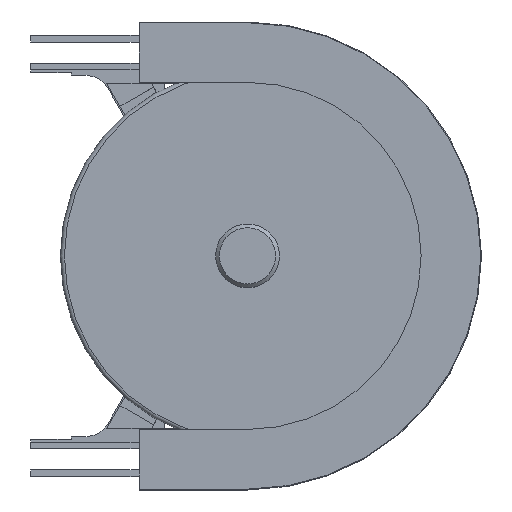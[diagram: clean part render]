
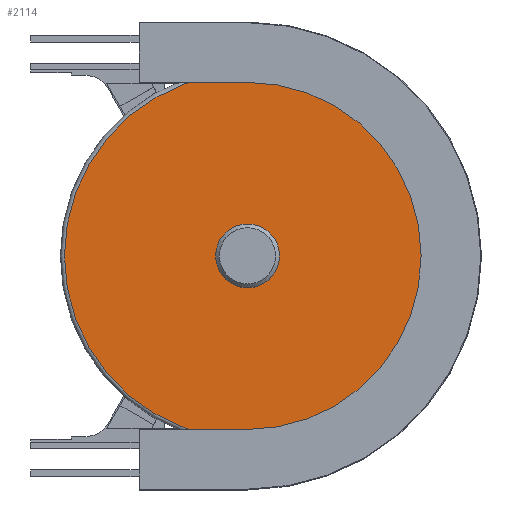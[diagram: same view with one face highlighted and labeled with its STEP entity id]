
A CAD part, top view. The second image highlights one B-rep face of the part: STEP entity #2114.
In plain terms, the highlighted planar face has unit normal (0, 0, 1).
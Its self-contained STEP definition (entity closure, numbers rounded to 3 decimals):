
#41=FACE_BOUND('',#345,.T.);
#81=CIRCLE('',#2283,135.);
#83=CIRCLE('',#2286,21.);
#213=FACE_OUTER_BOUND('',#344,.T.);
#344=EDGE_LOOP('',(#1806));
#345=EDGE_LOOP('',(#1807));
#1023=VERTEX_POINT('',#3376);
#1024=VERTEX_POINT('',#3380);
#1290=EDGE_CURVE('',#1023,#1023,#81,.T.);
#1292=EDGE_CURVE('',#1024,#1024,#83,.T.);
#1806=ORIENTED_EDGE('',*,*,#1290,.T.);
#1807=ORIENTED_EDGE('',*,*,#1292,.F.);
#2000=PLANE('',#2285);
#2114=ADVANCED_FACE('',(#213,#41),#2000,.T.);
#2283=AXIS2_PLACEMENT_3D('',#3377,#2769,#2770);
#2285=AXIS2_PLACEMENT_3D('',#3379,#2773,#2774);
#2286=AXIS2_PLACEMENT_3D('',#3381,#2775,#2776);
#2769=DIRECTION('center_axis',(0.,0.,1.));
#2770=DIRECTION('ref_axis',(1.,0.,0.));
#2773=DIRECTION('center_axis',(0.,0.,1.));
#2774=DIRECTION('ref_axis',(1.,0.,0.));
#2775=DIRECTION('center_axis',(0.,0.,1.));
#2776=DIRECTION('ref_axis',(1.,0.,0.));
#3376=CARTESIAN_POINT('',(-55.,150.,33.5));
#3377=CARTESIAN_POINT('Origin',(80.,150.,33.5));
#3379=CARTESIAN_POINT('Origin',(59.,150.,33.5));
#3380=CARTESIAN_POINT('',(101.,150.,33.5));
#3381=CARTESIAN_POINT('Origin',(80.,150.,33.5));
